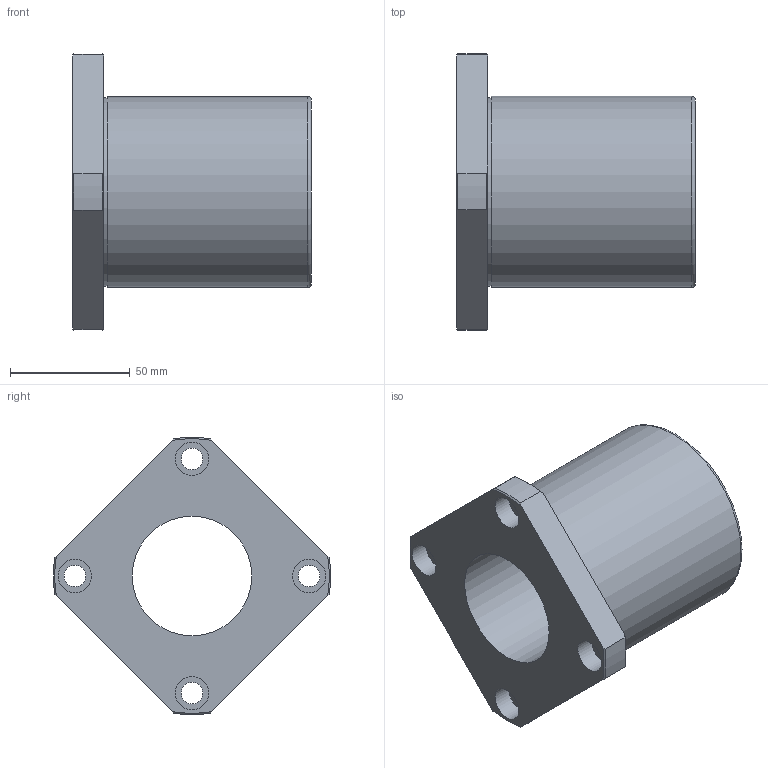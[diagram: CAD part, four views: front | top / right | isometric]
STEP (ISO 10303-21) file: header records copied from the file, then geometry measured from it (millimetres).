
FILE_DESCRIPTION(('STEP AP203'),'1');
FILE_NAME('//192.168.1.1/share/s-4 技術開発/s-4-4_CAD/s-4-4-3_見直し済み/002 修正済み/NF-V/NF-50VUU.step','2022-03-08T06:39:08',(' '),(' '),'Spatial InterOp 3D',' ',' ');
FILE_SCHEMA(('CONFIG_CONTROL_DESIGN'));
Length unit declared in the file: millimetre
Products named in the file (1): 1
Bounding box: 100 x 115.89 x 115.89 mm (x, y, z)
Volume: 341724.1 mm3; surface area: 56126.3 mm2
Topology: 1 solids, 1 shells, 36 faces, 83 edges, 55 vertices
Faces by surface type: cylinder 15, plane 12, cone 8, torus 1
Full cylindrical faces by diameter (mm): 9 x4, 14 x4, 50 x1, 79 x1, 80 x1
Entity records: 1058 total; most frequent: CARTESIAN_POINT 211, DIRECTION 168, ORIENTED_EDGE 142, AXIS2_PLACEMENT_3D 76, EDGE_CURVE 71, EDGE_LOOP 64, VERTEX_POINT 55, FACE_OUTER_BOUND 48
